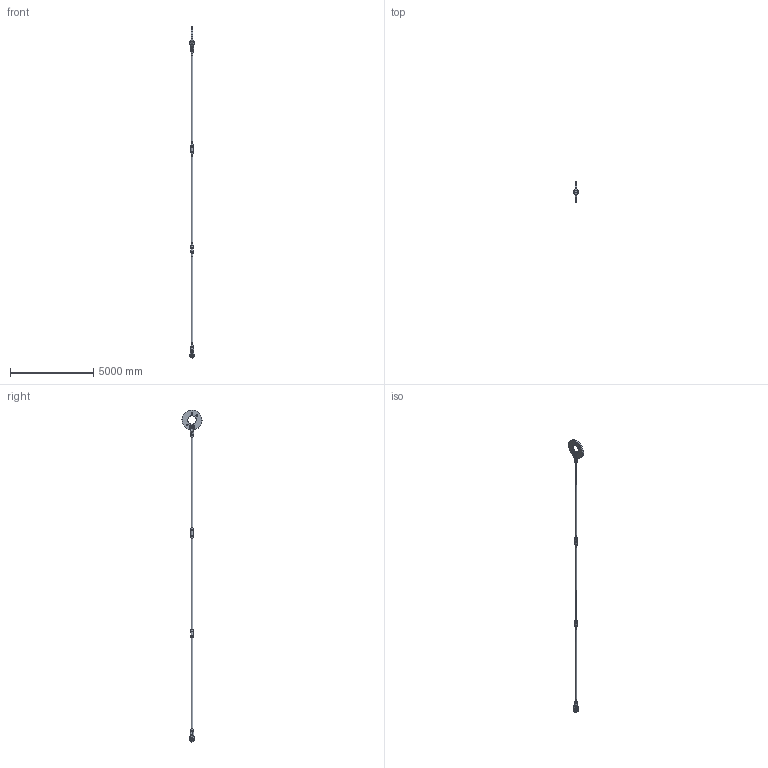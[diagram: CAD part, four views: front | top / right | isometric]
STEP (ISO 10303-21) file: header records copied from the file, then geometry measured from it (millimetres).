
FILE_DESCRIPTION(/* description */ (''),/* implementation_level */ '2;1');
FILE_NAME(/* name */ 'C:\Vault-WS\Anker\Werksnorm\Hochbau\ASDO-System\ASDO-S\System Komplett\Step\M 100.stp',/* time_stamp */ '2014-01-30T09:28:43+01:00',/* author */ ('ritgen'),/* organization */ (''),/* preprocessor_version */ 'ST-DEVELOPER v15.2',/* originating_system */ 'Autodesk Inventor 2014',/* authorisation */ '');
FILE_SCHEMA (('AUTOMOTIVE_DESIGN { 1 0 10303 214 3 1 1 }'));
Length unit declared in the file: millimetre
Products named in the file (11): ASDO-005772; ASDO-014277; ASDO-014327; DIN 7991 - M16x35 - 8.8; ASDO-013946; ASDO-001714; ASDO-001359; ASDO-001466; ASDO-006468; ASDO-014054; ASDO-006467
Bounding box: 249 x 1203.85 x 19901.54 mm (x, y, z)
Volume: 264826371.2 mm3; surface area: 11072865.2 mm2
Topology: 24 solids, 24 shells, 503 faces, 1068 edges, 648 vertices
Faces by surface type: plane 166, bspline 144, cylinder 89, cone 58, torus 46
Full cylindrical faces by diameter (mm): 9 x18, 13.835 x4, 16 x4, 18 x4, 30 x4, 93.505 x11, 100 x5, 102 x14, 104 x1, 105 x6, 139 x4, 143 x6, 159 x2, 500 x1, 1205 x1
Entity records: 13872 total; most frequent: CARTESIAN_POINT 9556, DIRECTION 774, ORIENTED_EDGE 770, EDGE_CURVE 385, AXIS2_PLACEMENT_3D 357, EDGE_LOOP 330, VERTEX_POINT 271, ADVANCED_FACE 219
